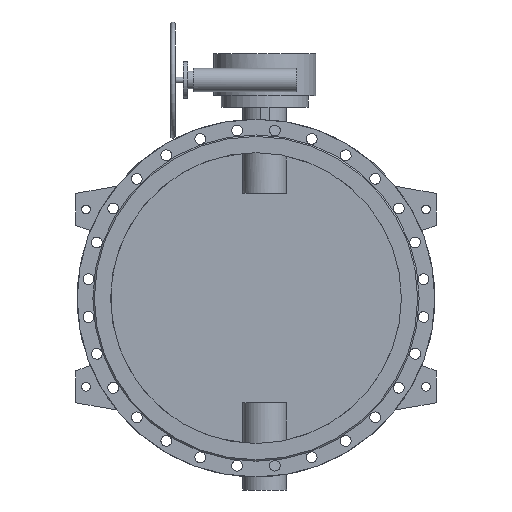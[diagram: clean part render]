
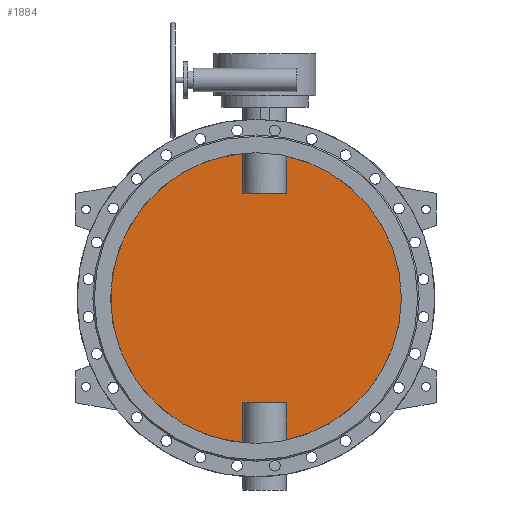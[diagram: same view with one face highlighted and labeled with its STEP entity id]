
A CAD part, front view. The second image highlights one B-rep face of the part: STEP entity #1884.
In plain terms, the highlighted planar face has unit normal (0, -1, 0).
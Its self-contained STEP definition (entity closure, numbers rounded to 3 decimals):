
#1884=ADVANCED_FACE('',(#3982),#3984,.F.);
#3982=FACE_BOUND('',#3983,.T.);
#3983=EDGE_LOOP('',(#4972,#4973,#4974,#4975,#4976,#4977,#4978,#4979));
#3984=PLANE('',#3985);
#3985=AXIS2_PLACEMENT_3D('',#3986,#3987,#3988);
#3986=CARTESIAN_POINT('',(0.,-5.,0.));
#3987=DIRECTION('',(0.,1.,0.));
#3988=DIRECTION('',(1.,0.,0.));
#4972=ORIENTED_EDGE('',*,*,#5477,.T.);
#4973=ORIENTED_EDGE('',*,*,#5483,.T.);
#4974=ORIENTED_EDGE('',*,*,#5484,.T.);
#4975=ORIENTED_EDGE('',*,*,#5485,.T.);
#4976=ORIENTED_EDGE('',*,*,#5479,.T.);
#4977=ORIENTED_EDGE('',*,*,#5486,.T.);
#4978=ORIENTED_EDGE('',*,*,#5487,.T.);
#4979=ORIENTED_EDGE('',*,*,#5488,.T.);
#5477=EDGE_CURVE('',#6290,#6291,#6292,.F.);
#5479=EDGE_CURVE('',#6295,#6293,#6296,.F.);
#5483=EDGE_CURVE('',#6291,#6302,#6303,.T.);
#5484=EDGE_CURVE('',#6302,#6304,#6305,.F.);
#5485=EDGE_CURVE('',#6304,#6295,#6306,.F.);
#5486=EDGE_CURVE('',#6293,#6307,#6308,.F.);
#5487=EDGE_CURVE('',#6307,#6309,#6310,.F.);
#5488=EDGE_CURVE('',#6309,#6290,#6311,.T.);
#6290=VERTEX_POINT('',#9145);
#6291=VERTEX_POINT('',#9146);
#6292=CIRCLE('',#9147,500.);
#6293=VERTEX_POINT('',#9151);
#6295=VERTEX_POINT('',#9249);
#6296=CIRCLE('',#9250,500.);
#6302=VERTEX_POINT('',#9360);
#6303=LINE('',#9361,#9362);
#6304=VERTEX_POINT('',#9364);
#6305=LINE('',#9365,#9366);
#6306=LINE('',#9368,#9369);
#6307=VERTEX_POINT('',#9371);
#6308=LINE('',#9372,#9373);
#6309=VERTEX_POINT('',#9375);
#6310=LINE('',#9376,#9377);
#6311=LINE('',#9379,#9380);
#9145=CARTESIAN_POINT('',(104.833,-5.,-488.887));
#9146=CARTESIAN_POINT('',(104.833,-5.,488.887));
#9147=AXIS2_PLACEMENT_3D('',#9148,#9149,#9150);
#9148=CARTESIAN_POINT('',(0.,-5.,0.));
#9149=DIRECTION('',(0.,1.,0.));
#9150=DIRECTION('',(0.21,0.,0.978));
#9151=CARTESIAN_POINT('',(-44.833,-5.,-497.986));
#9249=CARTESIAN_POINT('',(-44.833,-5.,497.986));
#9250=AXIS2_PLACEMENT_3D('',#9251,#9252,#9253);
#9251=CARTESIAN_POINT('',(0.,-5.,0.));
#9252=DIRECTION('',(0.,1.,0.));
#9253=DIRECTION('',(-0.09,0.,-0.996));
#9360=CARTESIAN_POINT('',(104.833,-5.,360.));
#9361=CARTESIAN_POINT('',(104.833,-5.,488.887));
#9362=VECTOR('',#9363,1.);
#9363=DIRECTION('',(0.,0.,-1.));
#9364=CARTESIAN_POINT('',(-44.833,-5.,360.));
#9365=CARTESIAN_POINT('',(-44.833,-5.,360.));
#9366=VECTOR('',#9367,1.);
#9367=DIRECTION('',(1.,0.,0.));
#9368=CARTESIAN_POINT('',(-44.833,-5.,497.986));
#9369=VECTOR('',#9370,1.);
#9370=DIRECTION('',(0.,0.,-1.));
#9371=CARTESIAN_POINT('',(-44.833,-5.,-360.));
#9372=CARTESIAN_POINT('',(-44.833,-5.,-360.));
#9373=VECTOR('',#9374,1.);
#9374=DIRECTION('',(0.,0.,-1.));
#9375=CARTESIAN_POINT('',(104.833,-5.,-360.));
#9376=CARTESIAN_POINT('',(104.833,-5.,-360.));
#9377=VECTOR('',#9378,1.);
#9378=DIRECTION('',(-1.,0.,0.));
#9379=CARTESIAN_POINT('',(104.833,-5.,-360.));
#9380=VECTOR('',#9381,1.);
#9381=DIRECTION('',(0.,0.,-1.));
